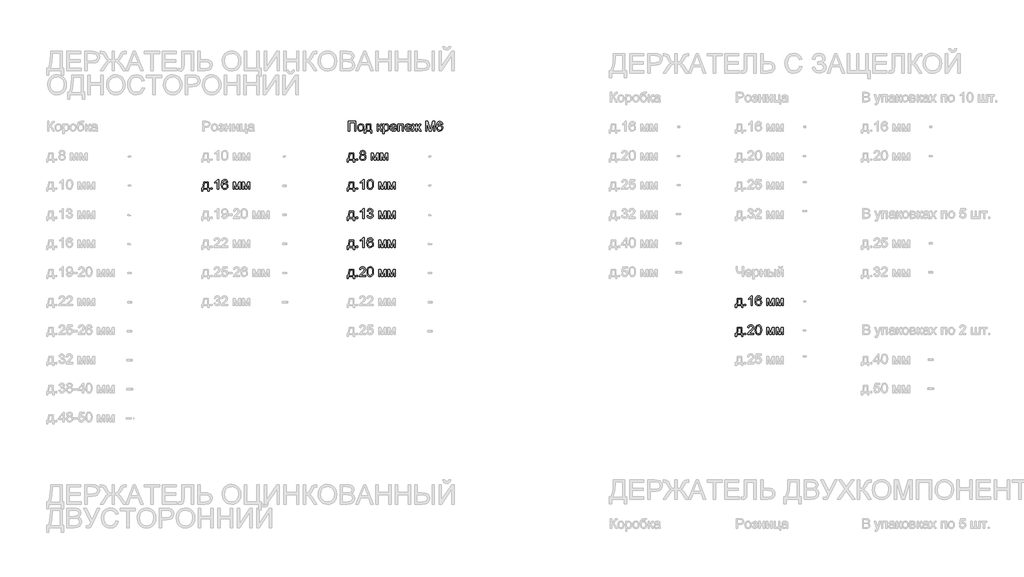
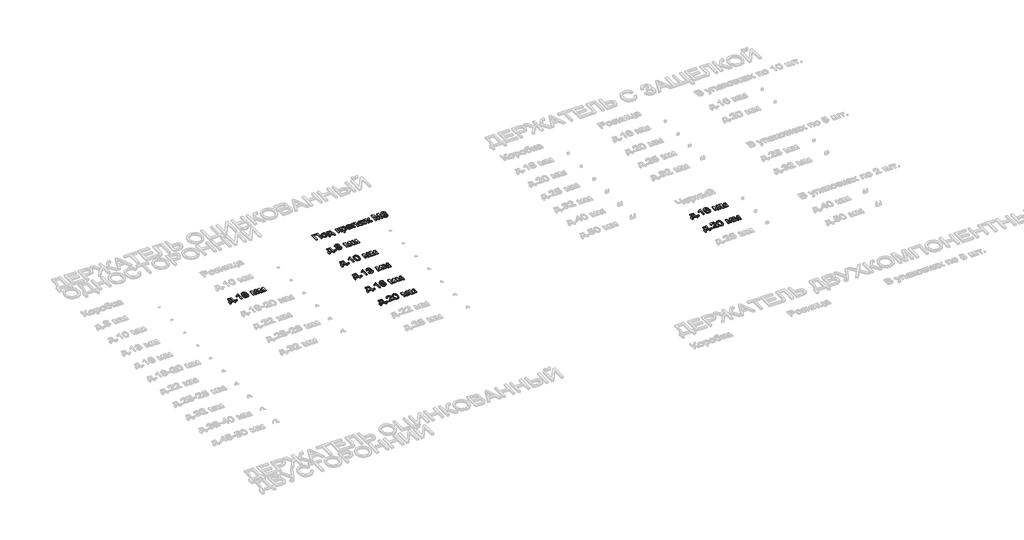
# One storey, part 40 of 98: 9 proxies.
"""IFC4 building model written with IfcOpenShell, lengths in millimetres."""

from ifc_helpers import new_model, si_unit, origin, origin_with_axes, place, context, project, spatial, polyline, outline, extrude, element, save

model = new_model("IFC4")

# Units and contexts
model_context = context("Model", 3, world=origin())
ifc_project = project(units=[si_unit("LENGTHUNIT", "METRE", prefix="MILLI")], contexts=[model_context])

# Site, building, storey
site = spatial("IfcSite", under=ifc_project)
building = spatial("IfcBuilding", under=site)
storey = spatial("IfcBuildingStorey", under=building, Name="Этаж 01", Elevation=0.0)

# Proxies
placement = place(None, origin())
element("IfcBuildingElementProxy", 1, Name="100", ObjectType="100", at=placement, inside=storey, context=model_context, shape_type="SweptSolid", body=[
    extrude(outline(polyline([(3063.5964075, -32159.0558563), (3142.0778998, -32159.0558563), (3142.0778998, -32259.5121665), (3129.520861, -32259.5121665), (3129.520861, -32171.6128951), (3076.1534462, -32171.6128951), (3076.1534462, -32259.5121665), (3063.5964075, -32259.5121665), (3063.5964075, -32159.0558563)])), origin_with_axes(), (0.0, 0.0, 1.0), 10.0),
    extrude(outline(polyline([(3159.3438281, -32222.6258651), (3162.0600235, -32204.8387706), (3170.2086097, -32192.3369141), (3180.2763136, -32186.2116789), (3192.3305803, -32184.1699338), (3205.5222155, -32186.656203), (3216.058969, -32194.1150104), (3222.9659534, -32205.957745), (3225.2682816, -32221.5957955), (3221.1970542, -32243.9384953), (3209.3389912, -32256.5813732), (3192.3305803, -32261.0817963), (3178.9795296, -32258.6047242), (3168.4550388, -32251.1735079), (3161.6216308, -32239.082453), (3159.3438281, -32222.6258651)]), holes=[polyline([(3171.9008668, -32222.6013396), (3173.3540007, -32233.9658276), (3177.7134024, -32242.0622972), (3184.2739646, -32246.9091424), (3192.3305803, -32248.5247575), (3200.3504078, -32246.8999454), (3206.8987073, -32242.025509), (3211.258109, -32233.8217405), (3212.7112428, -32222.2089321), (3211.2489119, -32211.175538), (3206.8619191, -32203.189433), (3200.3044225, -32198.3425877), (3192.3305803, -32196.7269726), (3184.2739646, -32198.3364563), (3177.7134024, -32203.1649075), (3173.3540007, -32211.242983), (3171.9008668, -32222.6013396)])]), origin_with_axes(), (0.0, 0.0, 1.0), 10.0),
    extrude(outline(polyline([(3250.3823591, -32185.7395637), (3297.4712545, -32185.7395637), (3297.4712545, -32246.9551277), (3306.8890336, -32246.9551277), (3306.8890336, -32279.9173545), (3294.3319948, -32279.9173545), (3294.3319948, -32259.5121665), (3242.5342099, -32259.5121665), (3242.5342099, -32279.9173545), (3229.9771711, -32279.9173545), (3229.9771711, -32246.9551277), (3237.8253204, -32246.9551277), (3247.5251423, -32223.0060098), (3250.3823591, -32185.7395637)]), holes=[polyline([(3261.3697681, -32198.2966025), (3258.4267121, -32226.905559), (3251.951989, -32246.9551277), (3284.9142158, -32246.9551277), (3284.9142158, -32198.2966025), (3261.3697681, -32198.2966025)])]), origin_with_axes(), (0.0, 0.0, 1.0), 10.0),
    extrude(outline(polyline([(3360.2564484, -32185.7395637), (3372.8134871, -32185.7395637), (3372.8134871, -32217.1321606), (3381.2257221, -32214.8758177), (3388.1173781, -32201.7301677), (3393.8440745, -32190.3871396), (3398.8963206, -32186.6960569), (3408.0811077, -32185.7395637), (3410.4846034, -32185.7395637), (3410.4846034, -32198.3701789), (3407.1000891, -32198.2966025), (3400.9687225, -32199.6209776), (3396.6522404, -32207.8860598), (3391.5877316, -32216.8255923), (3384.4876091, -32221.203388), (3392.4093347, -32226.0900872), (3400.1839076, -32236.3846517), (3413.6238631, -32259.5121665), (3399.3500417, -32259.5121665), (3386.1798663, -32236.875161), (3379.5579904, -32227.2979664), (3372.8134871, -32224.9803098), (3372.8134871, -32259.5121665), (3360.2564484, -32259.5121665), (3360.2564484, -32185.7395637)])), origin_with_axes(), (0.0, 0.0, 1.0), 10.0),
    extrude(outline(polyline([(3421.4720124, -32287.7655037), (3421.4720124, -32185.7395637), (3434.0290511, -32185.7395637), (3434.0290511, -32198.0513478), (3442.7110662, -32187.6402873), (3454.4342391, -32184.1699338), (3470.3512668, -32189.0259762), (3480.7500645, -32202.7111864), (3484.2572062, -32222.0617793), (3480.2963434, -32242.4056537), (3468.7938997, -32256.2625422), (3452.9136602, -32261.0817963), (3441.987565, -32257.8566975), (3434.0290511, -32249.7019799), (3434.0290511, -32287.7655037), (3421.4720124, -32287.7655037)]), holes=[polyline([(3434.0290511, -32223.2144763), (3435.3871488, -32234.4716653), (3439.4614419, -32242.34434), (3445.4732469, -32246.9796532), (3452.6438801, -32248.5247575), (3459.9310093, -32246.9244709), (3466.0960984, -32242.1236108), (3470.2991502, -32233.9627619), (3471.7001674, -32222.2825085), (3470.3328727, -32211.0866332), (3466.2309884, -32203.1035939), (3460.2283806, -32198.3211279), (3453.1589149, -32196.7269726), (3446.0618581, -32198.4222955), (3439.8293239, -32203.5082641), (3435.4791193, -32211.8254628), (3434.0290511, -32223.2144763)])]), origin_with_axes(), (0.0, 0.0, 1.0), 10.0),
    extrude(outline(polyline([(3550.0345069, -32237.5373486), (3562.346291, -32239.1069785), (3557.9102473, -32248.3837361), (3550.8315846, -32255.3183117), (3541.2697184, -32259.6409252), (3529.3840643, -32261.0817963), (3514.6503904, -32258.5955272), (3503.3134936, -32251.1367197), (3496.0846123, -32239.1897519), (3493.6749853, -32223.2390017), (3496.1091378, -32206.751757), (3503.4115954, -32194.4215788), (3514.5952081, -32186.7328451), (3528.6728258, -32184.1699338), (3542.3120507, -32186.7267137), (3553.2105548, -32194.3970533), (3560.3566626, -32206.7027061), (3562.7386985, -32223.1654253), (3562.6651221, -32226.5499397), (3506.232024, -32226.5499397), (3508.4055935, -32235.9493247), (3513.4547739, -32242.8593748), (3520.7419031, -32247.1084119), (3529.6293189, -32248.5247575), (3541.941103, -32245.9005326), (3550.0345069, -32237.5373486)]), holes=[polyline([(3506.232024, -32213.9929009), (3550.1816597, -32213.9929009), (3545.1539391, -32202.6130845), (3537.8330874, -32198.1985006), (3528.6237748, -32196.7269726), (3513.1604683, -32201.4235994), (3508.2952289, -32206.9142382), (3506.232024, -32213.9929009)])]), origin_with_axes(), (0.0, 0.0, 1.0), 10.0),
    extrude(outline(polyline([(3575.2957373, -32185.7395637), (3631.8024117, -32185.7395637), (3631.8024117, -32259.5121665), (3619.245373, -32259.5121665), (3619.245373, -32198.2966025), (3587.852776, -32198.2966025), (3587.852776, -32259.5121665), (3575.2957373, -32259.5121665), (3575.2957373, -32185.7395637)])), origin_with_axes(), (0.0, 0.0, 1.0), 10.0),
    extrude(outline(polyline([(3702.288602, -32237.5373486), (3714.6003861, -32239.1069785), (3710.1643424, -32248.3837361), (3703.0856797, -32255.3183117), (3693.5238135, -32259.6409252), (3681.6381594, -32261.0817963), (3666.9044854, -32258.5955272), (3655.5675886, -32251.1367197), (3648.3387074, -32239.1897519), (3645.9290804, -32223.2390017), (3648.3632329, -32206.751757), (3655.6656905, -32194.4215788), (3666.8493031, -32186.7328451), (3680.9269208, -32184.1699338), (3694.5661458, -32186.7267137), (3705.4646499, -32194.3970533), (3712.6107577, -32206.7027061), (3714.9927936, -32223.1654253), (3714.9192172, -32226.5499397), (3658.4861191, -32226.5499397), (3660.6596886, -32235.9493247), (3665.708869, -32242.8593748), (3672.9959981, -32247.1084119), (3681.883414, -32248.5247575), (3694.1951981, -32245.9005326), (3702.288602, -32237.5373486)]), holes=[polyline([(3658.4861191, -32213.9929009), (3702.4357548, -32213.9929009), (3697.4080342, -32202.6130845), (3690.0871825, -32198.1985006), (3680.8778699, -32196.7269726), (3665.4145634, -32201.4235994), (3660.549324, -32206.9142382), (3658.4861191, -32213.9929009)])]), origin_with_axes(), (0.0, 0.0, 1.0), 10.0),
    extrude(outline(polyline([(3773.0690979, -32185.7395637), (3773.0690979, -32217.1321606), (3780.3899496, -32214.5447239), (3787.3183938, -32201.1170311), (3795.583476, -32188.2411613), (3807.3311744, -32185.7395637), (3812.309844, -32185.7395637), (3812.309844, -32198.3701789), (3808.8517533, -32198.2966025), (3802.3770302, -32199.5964522), (3797.8888698, -32207.738907), (3792.6772082, -32216.6661768), (3785.2337292, -32221.203388), (3793.4436291, -32226.0900872), (3801.4450624, -32236.3846517), (3815.4491037, -32259.5121665), (3801.052655, -32259.5121665), (3787.2693429, -32236.7034828), (3780.2427968, -32227.22439), (3773.0690979, -32224.9803098), (3773.0690979, -32259.5121665), (3760.5120591, -32259.5121665), (3760.5120591, -32224.9803098), (3753.3628857, -32227.1753391), (3746.2872886, -32236.6544318), (3732.5039765, -32259.5121665), (3718.1320533, -32259.5121665), (3732.0870436, -32236.3846517), (3740.1497907, -32226.0900872), (3748.3964787, -32221.203388), (3740.4992786, -32216.2001929), (3733.7302499, -32203.3243231), (3730.4193119, -32199.0814174), (3724.9991838, -32198.2230261), (3721.271313, -32198.2966025), (3721.271313, -32185.7395637), (3723.1597739, -32185.7395637), (3734.1717083, -32186.5243786), (3739.8861419, -32189.859842), (3746.2872886, -32201.1170311), (3753.1421565, -32214.4588848), (3760.5120591, -32217.1321606), (3760.5120591, -32185.7395637), (3773.0690979, -32185.7395637)])), origin_with_axes(), (0.0, 0.0, 1.0), 10.0),
    extrude(outline(polyline([(3862.5379991, -32259.5121665), (3862.5379991, -32159.0558563), (3884.144935, -32159.0558563), (3904.6972758, -32229.8608776), (3908.8420796, -32244.6497339), (3913.3302399, -32228.6346043), (3933.5392242, -32159.0558563), (3955.14616, -32159.0558563), (3955.14616, -32259.5121665), (3942.5891213, -32259.5121665), (3942.5891213, -32171.6128951), (3917.3524164, -32259.5121665), (3900.3317427, -32259.5121665), (3875.0950379, -32171.6128951), (3875.0950379, -32259.5121665), (3862.5379991, -32259.5121665)])), origin_with_axes(), (0.0, 0.0, 1.0), 10.0),
    extrude(outline(polyline([(4036.766912, -32185.7395637), (4024.2098733, -32187.3091935), (4019.4519328, -32176.8368194), (4006.8703686, -32171.6128951), (3995.5396031, -32174.6540529), (3986.9679526, -32186.0706575), (3983.3994973, -32208.4501455), (3994.4727453, -32198.4314925), (4008.1947437, -32195.1573428), (4019.7952893, -32197.3952916), (4029.5318995, -32204.109138), (4036.1353813, -32214.3669143), (4038.3365419, -32227.2366527), (4034.1917381, -32244.5638947), (4022.7873962, -32256.8266279), (4006.3308083, -32261.0817963), (3992.084578, -32258.2613677), (3980.7384842, -32249.8000818), (3973.3164649, -32234.8640728), (3970.8424585, -32212.6194748), (3973.5893107, -32187.6096305), (3981.8298674, -32170.5092491), (3993.0809251, -32161.9192045), (4007.6551835, -32159.0558563), (4018.6732492, -32160.8278213), (4027.4962857, -32166.1437161), (4033.6767033, -32174.5866079), (4036.766912, -32185.7395637)]), holes=[polyline([(3983.3994973, -32227.040449), (3986.305765, -32237.9174933), (3994.0312869, -32245.8146935), (4005.3497896, -32248.5247575), (4013.6363316, -32247.1206746), (4020.1509086, -32242.9084257), (4024.3723545, -32236.2865498), (4025.7795031, -32227.6535857), (4024.3907486, -32219.3670437), (4020.224485, -32213.0486705), (4013.5995434, -32209.0479538), (4004.8347548, -32207.7143815), (3989.6412284, -32213.0486705), (3984.9599301, -32219.2137596), (3983.3994973, -32227.040449)])]), origin_with_axes(), (0.0, 0.0, 1.0), 10.0),
])
element("IfcBuildingElementProxy", 2, Name="100", ObjectType="100", at=placement, inside=storey, context=model_context, shape_type="SweptSolid", body=[
    extrude(outline(polyline([(1573.0141865, -32785.7395637), (1620.1030819, -32785.7395637), (1620.1030819, -32846.9551277), (1629.520861, -32846.9551277), (1629.520861, -32879.9173545), (1616.9638222, -32879.9173545), (1616.9638222, -32859.5121665), (1565.1660373, -32859.5121665), (1565.1660373, -32879.9173545), (1552.6089985, -32879.9173545), (1552.6089985, -32846.9551277), (1560.4571478, -32846.9551277), (1570.1569697, -32823.0060098), (1573.0141865, -32785.7395637)]), holes=[polyline([(1584.0015955, -32798.2966025), (1581.0585395, -32826.905559), (1574.5838164, -32846.9551277), (1607.5460431, -32846.9551277), (1607.5460431, -32798.2966025), (1584.0015955, -32798.2966025)])]), origin_with_axes(), (0.0, 0.0, 1.0), 10.0),
    extrude(outline(polyline([(1646.7867893, -32859.5121665), (1646.7867893, -32846.9551277), (1659.3438281, -32846.9551277), (1659.3438281, -32859.5121665), (1646.7867893, -32859.5121665)])), origin_with_axes(), (0.0, 0.0, 1.0), 10.0),
    extrude(outline(polyline([(1726.8379114, -32859.5121665), (1714.2808727, -32859.5121665), (1714.2808727, -32781.2268779), (1702.3860215, -32789.7004265), (1689.1667951, -32796.0402596), (1689.1667951, -32784.1699338), (1707.5731576, -32772.4222355), (1718.7445076, -32759.0558563), (1726.8379114, -32759.0558563), (1726.8379114, -32859.5121665)])), origin_with_axes(), (0.0, 0.0, 1.0), 10.0),
    extrude(outline(polyline([(1821.0157022, -32785.7395637), (1808.4586634, -32787.3091935), (1803.700723, -32776.8368194), (1791.1191587, -32771.6128951), (1779.7883933, -32774.6540529), (1771.2167428, -32786.0706575), (1767.6482874, -32808.4501455), (1778.7215355, -32798.4314925), (1792.4435339, -32795.1573428), (1804.0440795, -32797.3952916), (1813.7806896, -32804.109138), (1820.3841715, -32814.3669143), (1822.5853321, -32827.2366527), (1818.4405282, -32844.5638947), (1807.0361864, -32856.8266279), (1790.5795985, -32861.0817963), (1776.3333682, -32858.2613677), (1764.9872743, -32849.8000818), (1757.5652551, -32834.8640728), (1755.0912487, -32812.6194748), (1757.8381009, -32787.6096305), (1766.0786576, -32770.5092491), (1777.3297153, -32761.9192045), (1791.9039737, -32759.0558563), (1802.9220394, -32760.8278213), (1811.7450759, -32766.1437161), (1817.9254935, -32774.5866079), (1821.0157022, -32785.7395637)]), holes=[polyline([(1767.6482874, -32827.040449), (1770.5545552, -32837.9174933), (1778.2800771, -32845.8146935), (1789.5985798, -32848.5247575), (1797.8851218, -32847.1206746), (1804.3996988, -32842.9084257), (1808.6211447, -32836.2865498), (1810.0282933, -32827.6535857), (1808.6395388, -32819.3670437), (1804.4732752, -32813.0486705), (1797.8483336, -32809.0479538), (1789.083545, -32807.7143815), (1773.8900186, -32813.0486705), (1769.2087202, -32819.2137596), (1767.6482874, -32827.040449)])]), origin_with_axes(), (0.0, 0.0, 1.0), 10.0),
    extrude(outline(polyline([(1875.9527468, -32785.7395637), (1897.5596827, -32785.7395637), (1914.2124743, -32844.7968867), (1932.1651157, -32785.7395637), (1952.8646093, -32785.7395637), (1952.8646093, -32859.5121665), (1940.3075705, -32859.5121665), (1940.3075705, -32800.111487), (1922.2568273, -32859.5121665), (1905.7757139, -32859.5121665), (1888.5097856, -32797.2665329), (1888.5097856, -32859.5121665), (1875.9527468, -32859.5121665), (1875.9527468, -32785.7395637)])), origin_with_axes(), (0.0, 0.0, 1.0), 10.0),
    extrude(outline(polyline([(1971.7001674, -32785.7395637), (1993.3071033, -32785.7395637), (2009.9598949, -32844.7968867), (2027.9125363, -32785.7395637), (2048.6120299, -32785.7395637), (2048.6120299, -32859.5121665), (2036.0549911, -32859.5121665), (2036.0549911, -32800.111487), (2018.0042479, -32859.5121665), (2001.5231345, -32859.5121665), (1984.2572062, -32797.2665329), (1984.2572062, -32859.5121665), (1971.7001674, -32859.5121665), (1971.7001674, -32785.7395637)])), origin_with_axes(), (0.0, 0.0, 1.0), 10.0),
])
element("IfcBuildingElementProxy", 3, Name="100", ObjectType="100", at=placement, inside=storey, context=model_context, shape_type="SweptSolid", body=[
    extrude(outline(polyline([(3073.0141865, -32485.7395637), (3120.1030819, -32485.7395637), (3120.1030819, -32546.9551277), (3129.520861, -32546.9551277), (3129.520861, -32579.9173545), (3116.9638222, -32579.9173545), (3116.9638222, -32559.5121665), (3065.1660373, -32559.5121665), (3065.1660373, -32579.9173545), (3052.6089985, -32579.9173545), (3052.6089985, -32546.9551277), (3060.4571478, -32546.9551277), (3070.1569697, -32523.0060098), (3073.0141865, -32485.7395637)]), holes=[polyline([(3084.0015955, -32498.2966025), (3081.0585395, -32526.905559), (3074.5838164, -32546.9551277), (3107.5460431, -32546.9551277), (3107.5460431, -32498.2966025), (3084.0015955, -32498.2966025)])]), origin_with_axes(), (0.0, 0.0, 1.0), 10.0),
    extrude(outline(polyline([(3146.7867893, -32559.5121665), (3146.7867893, -32546.9551277), (3159.3438281, -32546.9551277), (3159.3438281, -32559.5121665), (3146.7867893, -32559.5121665)])), origin_with_axes(), (0.0, 0.0, 1.0), 10.0),
    extrude(outline(polyline([(3198.045014, -32504.1827144), (3186.6038839, -32496.3836161), (3182.8882758, -32484.2435102), (3184.9116267, -32474.4271923), (3190.9816796, -32466.3153943), (3200.4178528, -32460.8707408), (3212.5395646, -32459.0558563), (3224.7348527, -32460.9136604), (3234.2936532, -32466.4870726), (3240.4740707, -32474.7276293), (3242.5342099, -32484.5868668), (3238.8676527, -32496.4204043), (3227.7453537, -32504.1827144), (3241.0994701, -32514.0296891), (3245.6734696, -32530.2778106), (3243.404864, -32542.2830264), (3236.5990471, -32552.2035775), (3226.0898847, -32558.8622416), (3212.7112428, -32561.0817963), (3199.3326009, -32558.8530446), (3188.8234386, -32552.1667893), (3182.0176217, -32542.151202), (3179.7490161, -32529.934454), (3184.5069565, -32513.3061879), (3198.045014, -32504.1827144)]), holes=[polyline([(3192.3060548, -32529.4929957), (3194.4029822, -32538.9475629), (3201.8219358, -32546.02316), (3212.8093447, -32548.5247575), (3221.3564697, -32547.2095794), (3227.7698792, -32543.264045), (3233.1164308, -32529.8854031), (3227.5982009, -32516.2492438), (3221.0376387, -32512.2025419), (3212.3924118, -32510.8536412), (3203.9648484, -32512.1841478), (3197.6158183, -32516.1756674), (3192.3060548, -32529.4929957)]), polyline([(3195.4453145, -32484.6113922), (3199.8966867, -32494.4706297), (3212.8583956, -32498.2966025), (3225.5625872, -32494.4951552), (3229.9771711, -32485.175478), (3225.4154344, -32475.524707), (3212.7112428, -32471.6128951), (3199.9702631, -32475.4388678), (3195.4453145, -32484.6113922)])]), origin_with_axes(), (0.0, 0.0, 1.0), 10.0),
    extrude(outline(polyline([(3299.0408844, -32485.7395637), (3320.6478202, -32485.7395637), (3337.3006119, -32544.7968867), (3355.2532532, -32485.7395637), (3375.9527468, -32485.7395637), (3375.9527468, -32559.5121665), (3363.3957081, -32559.5121665), (3363.3957081, -32500.111487), (3345.3449648, -32559.5121665), (3328.8638514, -32559.5121665), (3311.5979231, -32497.2665329), (3311.5979231, -32559.5121665), (3299.0408844, -32559.5121665), (3299.0408844, -32485.7395637)])), origin_with_axes(), (0.0, 0.0, 1.0), 10.0),
    extrude(outline(polyline([(3394.788305, -32485.7395637), (3416.3952408, -32485.7395637), (3433.0480325, -32544.7968867), (3451.0006738, -32485.7395637), (3471.7001674, -32485.7395637), (3471.7001674, -32559.5121665), (3459.1431287, -32559.5121665), (3459.1431287, -32500.111487), (3441.0923854, -32559.5121665), (3424.6112721, -32559.5121665), (3407.3453437, -32497.2665329), (3407.3453437, -32559.5121665), (3394.788305, -32559.5121665), (3394.788305, -32485.7395637)])), origin_with_axes(), (0.0, 0.0, 1.0), 10.0),
])
element("IfcBuildingElementProxy", 4, Name="100", ObjectType="100", at=placement, inside=storey, context=model_context, shape_type="SweptSolid", body=[
    extrude(outline(polyline([(3073.0141865, -32785.7395637), (3120.1030819, -32785.7395637), (3120.1030819, -32846.9551277), (3129.520861, -32846.9551277), (3129.520861, -32879.9173545), (3116.9638222, -32879.9173545), (3116.9638222, -32859.5121665), (3065.1660373, -32859.5121665), (3065.1660373, -32879.9173545), (3052.6089985, -32879.9173545), (3052.6089985, -32846.9551277), (3060.4571478, -32846.9551277), (3070.1569697, -32823.0060098), (3073.0141865, -32785.7395637)]), holes=[polyline([(3084.0015955, -32798.2966025), (3081.0585395, -32826.905559), (3074.5838164, -32846.9551277), (3107.5460431, -32846.9551277), (3107.5460431, -32798.2966025), (3084.0015955, -32798.2966025)])]), origin_with_axes(), (0.0, 0.0, 1.0), 10.0),
    extrude(outline(polyline([(3146.7867893, -32859.5121665), (3146.7867893, -32846.9551277), (3159.3438281, -32846.9551277), (3159.3438281, -32859.5121665), (3146.7867893, -32859.5121665)])), origin_with_axes(), (0.0, 0.0, 1.0), 10.0),
    extrude(outline(polyline([(3226.8379114, -32859.5121665), (3214.2808727, -32859.5121665), (3214.2808727, -32781.2268779), (3202.3860215, -32789.7004265), (3189.1667951, -32796.0402596), (3189.1667951, -32784.1699338), (3207.5731576, -32772.4222355), (3218.7445076, -32759.0558563), (3226.8379114, -32759.0558563), (3226.8379114, -32859.5121665)])), origin_with_axes(), (0.0, 0.0, 1.0), 10.0),
    extrude(outline(polyline([(3256.6608785, -32810.0933518), (3260.3519612, -32781.1900897), (3271.3148447, -32764.5250353), (3289.6231053, -32759.0558563), (3304.2893342, -32762.2932179), (3314.4183518, -32771.6251578), (3320.3044637, -32786.4875904), (3322.5853321, -32810.0933518), (3318.9310376, -32838.8739865), (3308.0049423, -32855.5758291), (3299.7735827, -32859.7053045), (3289.6231053, -32861.0817963), (3276.5755572, -32858.6905633), (3266.6672688, -32851.5168644), (3259.1624761, -32834.5268476), (3256.6608785, -32810.0933518)]), holes=[polyline([(3269.2179173, -32810.0688263), (3270.6894453, -32829.8210238), (3275.1040292, -32841.2529568), (3281.6768542, -32846.7068073), (3289.6231053, -32848.5247575), (3297.5693564, -32846.700676), (3304.1421814, -32841.2284313), (3308.5567653, -32829.7903669), (3310.0282933, -32810.0688263), (3308.6058162, -32790.7611529), (3304.3383851, -32779.2403151), (3297.7778228, -32773.5197501), (3289.4759525, -32771.6128951), (3281.6155405, -32773.2928895), (3275.3002329, -32778.3328729), (3270.7384962, -32790.5710806), (3269.2179173, -32810.0688263)])]), origin_with_axes(), (0.0, 0.0, 1.0), 10.0),
    extrude(outline(polyline([(3375.9527468, -32785.7395637), (3397.5596827, -32785.7395637), (3414.2124743, -32844.7968867), (3432.1651157, -32785.7395637), (3452.8646093, -32785.7395637), (3452.8646093, -32859.5121665), (3440.3075705, -32859.5121665), (3440.3075705, -32800.111487), (3422.2568273, -32859.5121665), (3405.7757139, -32859.5121665), (3388.5097856, -32797.2665329), (3388.5097856, -32859.5121665), (3375.9527468, -32859.5121665), (3375.9527468, -32785.7395637)])), origin_with_axes(), (0.0, 0.0, 1.0), 10.0),
    extrude(outline(polyline([(3471.7001674, -32785.7395637), (3493.3071033, -32785.7395637), (3509.9598949, -32844.7968867), (3527.9125363, -32785.7395637), (3548.6120299, -32785.7395637), (3548.6120299, -32859.5121665), (3536.0549911, -32859.5121665), (3536.0549911, -32800.111487), (3518.0042479, -32859.5121665), (3501.5231345, -32859.5121665), (3484.2572062, -32797.2665329), (3484.2572062, -32859.5121665), (3471.7001674, -32859.5121665), (3471.7001674, -32785.7395637)])), origin_with_axes(), (0.0, 0.0, 1.0), 10.0),
])
element("IfcBuildingElementProxy", 5, Name="100", ObjectType="100", at=placement, inside=storey, context=model_context, shape_type="SweptSolid", body=[
    extrude(outline(polyline([(3073.0141865, -33085.7395637), (3120.1030819, -33085.7395637), (3120.1030819, -33146.9551277), (3129.520861, -33146.9551277), (3129.520861, -33179.9173545), (3116.9638222, -33179.9173545), (3116.9638222, -33159.5121665), (3065.1660373, -33159.5121665), (3065.1660373, -33179.9173545), (3052.6089985, -33179.9173545), (3052.6089985, -33146.9551277), (3060.4571478, -33146.9551277), (3070.1569697, -33123.0060098), (3073.0141865, -33085.7395637)]), holes=[polyline([(3084.0015955, -33098.2966025), (3081.0585395, -33126.905559), (3074.5838164, -33146.9551277), (3107.5460431, -33146.9551277), (3107.5460431, -33098.2966025), (3084.0015955, -33098.2966025)])]), origin_with_axes(), (0.0, 0.0, 1.0), 10.0),
    extrude(outline(polyline([(3146.7867893, -33159.5121665), (3146.7867893, -33146.9551277), (3159.3438281, -33146.9551277), (3159.3438281, -33159.5121665), (3146.7867893, -33159.5121665)])), origin_with_axes(), (0.0, 0.0, 1.0), 10.0),
    extrude(outline(polyline([(3226.8379114, -33159.5121665), (3214.2808727, -33159.5121665), (3214.2808727, -33081.2268779), (3202.3860215, -33089.7004265), (3189.1667951, -33096.0402596), (3189.1667951, -33084.1699338), (3207.5731576, -33072.4222355), (3218.7445076, -33059.0558563), (3226.8379114, -33059.0558563), (3226.8379114, -33159.5121665)])), origin_with_axes(), (0.0, 0.0, 1.0), 10.0),
    extrude(outline(polyline([(3256.6608785, -33132.8284591), (3269.2179173, -33131.2588292), (3276.1463615, -33144.4780556), (3289.1080705, -33148.5247575), (3297.7165092, -33147.1329373), (3304.3629106, -33142.9574767), (3310.0282933, -33129.1741646), (3304.4119615, -33116.1879302), (3290.1381401, -33111.049845), (3281.3334977, -33112.4232711), (3282.7314492, -33099.8662323), (3284.7425375, -33100.0133851), (3298.9918334, -33096.4081416), (3303.7375112, -33091.8341421), (3305.3194038, -33085.3226308), (3300.7331415, -33075.5001815), (3288.9118668, -33071.6128951), (3276.9434392, -33075.5369697), (3270.7875471, -33087.3091935), (3258.2305084, -33085.7395637), (3261.9277224, -33074.4639805), (3268.5066788, -33066.0456142), (3277.5075249, -33060.8032958), (3288.4704084, -33059.0558563), (3303.6148838, -33062.5016843), (3314.2098853, -33071.9194634), (3317.8764425, -33084.5868668), (3314.3938263, -33096.1628869), (3304.0931304, -33104.47702), (3317.7783407, -33113.0609332), (3322.5853321, -33129.3948938), (3320.1818364, -33141.6331015), (3312.9713493, -33151.860221), (3302.0881736, -33158.7764025), (3288.6666121, -33161.0817963), (3276.5265063, -33159.1136276), (3266.6427433, -33153.2091216), (3259.7694814, -33144.1776186), (3256.6608785, -33132.8284591)])), origin_with_axes(), (0.0, 0.0, 1.0), 10.0),
    extrude(outline(polyline([(3375.9527468, -33085.7395637), (3397.5596827, -33085.7395637), (3414.2124743, -33144.7968867), (3432.1651157, -33085.7395637), (3452.8646093, -33085.7395637), (3452.8646093, -33159.5121665), (3440.3075705, -33159.5121665), (3440.3075705, -33100.111487), (3422.2568273, -33159.5121665), (3405.7757139, -33159.5121665), (3388.5097856, -33097.2665329), (3388.5097856, -33159.5121665), (3375.9527468, -33159.5121665), (3375.9527468, -33085.7395637)])), origin_with_axes(), (0.0, 0.0, 1.0), 10.0),
    extrude(outline(polyline([(3471.7001674, -33085.7395637), (3493.3071033, -33085.7395637), (3509.9598949, -33144.7968867), (3527.9125363, -33085.7395637), (3548.6120299, -33085.7395637), (3548.6120299, -33159.5121665), (3536.0549911, -33159.5121665), (3536.0549911, -33100.111487), (3518.0042479, -33159.5121665), (3501.5231345, -33159.5121665), (3484.2572062, -33097.2665329), (3484.2572062, -33159.5121665), (3471.7001674, -33159.5121665), (3471.7001674, -33085.7395637)])), origin_with_axes(), (0.0, 0.0, 1.0), 10.0),
])
element("IfcBuildingElementProxy", 6, Name="100", ObjectType="100", at=placement, inside=storey, context=model_context, shape_type="SweptSolid", body=[
    extrude(outline(polyline([(3073.0141865, -33385.7395637), (3120.1030819, -33385.7395637), (3120.1030819, -33446.9551277), (3129.520861, -33446.9551277), (3129.520861, -33479.9173545), (3116.9638222, -33479.9173545), (3116.9638222, -33459.5121665), (3065.1660373, -33459.5121665), (3065.1660373, -33479.9173545), (3052.6089985, -33479.9173545), (3052.6089985, -33446.9551277), (3060.4571478, -33446.9551277), (3070.1569697, -33423.0060098), (3073.0141865, -33385.7395637)]), holes=[polyline([(3084.0015955, -33398.2966025), (3081.0585395, -33426.905559), (3074.5838164, -33446.9551277), (3107.5460431, -33446.9551277), (3107.5460431, -33398.2966025), (3084.0015955, -33398.2966025)])]), origin_with_axes(), (0.0, 0.0, 1.0), 10.0),
    extrude(outline(polyline([(3146.7867893, -33459.5121665), (3146.7867893, -33446.9551277), (3159.3438281, -33446.9551277), (3159.3438281, -33459.5121665), (3146.7867893, -33459.5121665)])), origin_with_axes(), (0.0, 0.0, 1.0), 10.0),
    extrude(outline(polyline([(3226.8379114, -33459.5121665), (3214.2808727, -33459.5121665), (3214.2808727, -33381.2268779), (3202.3860215, -33389.7004265), (3189.1667951, -33396.0402596), (3189.1667951, -33384.1699338), (3207.5731576, -33372.4222355), (3218.7445076, -33359.0558563), (3226.8379114, -33359.0558563), (3226.8379114, -33459.5121665)])), origin_with_axes(), (0.0, 0.0, 1.0), 10.0),
    extrude(outline(polyline([(3321.0157022, -33385.7395637), (3308.4586634, -33387.3091935), (3303.700723, -33376.8368194), (3291.1191587, -33371.6128951), (3279.7883933, -33374.6540529), (3271.2167428, -33386.0706575), (3267.6482874, -33408.4501455), (3278.7215355, -33398.4314925), (3292.4435339, -33395.1573428), (3304.0440795, -33397.3952916), (3313.7806896, -33404.109138), (3320.3841715, -33414.3669143), (3322.5853321, -33427.2366527), (3318.4405282, -33444.5638947), (3307.0361864, -33456.8266279), (3290.5795985, -33461.0817963), (3276.3333682, -33458.2613677), (3264.9872743, -33449.8000818), (3257.5652551, -33434.8640728), (3255.0912487, -33412.6194748), (3257.8381009, -33387.6096305), (3266.0786576, -33370.5092491), (3277.3297153, -33361.9192045), (3291.9039737, -33359.0558563), (3302.9220394, -33360.8278213), (3311.7450759, -33366.1437161), (3317.9254935, -33374.5866079), (3321.0157022, -33385.7395637)]), holes=[polyline([(3267.6482874, -33427.040449), (3270.5545552, -33437.9174933), (3278.2800771, -33445.8146935), (3289.5985798, -33448.5247575), (3297.8851218, -33447.1206746), (3304.3996988, -33442.9084257), (3308.6211447, -33436.2865498), (3310.0282933, -33427.6535857), (3308.6395388, -33419.3670437), (3304.4732752, -33413.0486705), (3297.8483336, -33409.0479538), (3289.083545, -33407.7143815), (3273.8900186, -33413.0486705), (3269.2087202, -33419.2137596), (3267.6482874, -33427.040449)])]), origin_with_axes(), (0.0, 0.0, 1.0), 10.0),
    extrude(outline(polyline([(3375.9527468, -33385.7395637), (3397.5596827, -33385.7395637), (3414.2124743, -33444.7968867), (3432.1651157, -33385.7395637), (3452.8646093, -33385.7395637), (3452.8646093, -33459.5121665), (3440.3075705, -33459.5121665), (3440.3075705, -33400.111487), (3422.2568273, -33459.5121665), (3405.7757139, -33459.5121665), (3388.5097856, -33397.2665329), (3388.5097856, -33459.5121665), (3375.9527468, -33459.5121665), (3375.9527468, -33385.7395637)])), origin_with_axes(), (0.0, 0.0, 1.0), 10.0),
    extrude(outline(polyline([(3471.7001674, -33385.7395637), (3493.3071033, -33385.7395637), (3509.9598949, -33444.7968867), (3527.9125363, -33385.7395637), (3548.6120299, -33385.7395637), (3548.6120299, -33459.5121665), (3536.0549911, -33459.5121665), (3536.0549911, -33400.111487), (3518.0042479, -33459.5121665), (3501.5231345, -33459.5121665), (3484.2572062, -33397.2665329), (3484.2572062, -33459.5121665), (3471.7001674, -33459.5121665), (3471.7001674, -33385.7395637)])), origin_with_axes(), (0.0, 0.0, 1.0), 10.0),
])
element("IfcBuildingElementProxy", 7, Name="100", ObjectType="100", at=placement, inside=storey, context=model_context, shape_type="SweptSolid", body=[
    extrude(outline(polyline([(3073.0141865, -33685.7395637), (3120.1030819, -33685.7395637), (3120.1030819, -33746.9551277), (3129.520861, -33746.9551277), (3129.520861, -33779.9173545), (3116.9638222, -33779.9173545), (3116.9638222, -33759.5121665), (3065.1660373, -33759.5121665), (3065.1660373, -33779.9173545), (3052.6089985, -33779.9173545), (3052.6089985, -33746.9551277), (3060.4571478, -33746.9551277), (3070.1569697, -33723.0060098), (3073.0141865, -33685.7395637)]), holes=[polyline([(3084.0015955, -33698.2966025), (3081.0585395, -33726.905559), (3074.5838164, -33746.9551277), (3107.5460431, -33746.9551277), (3107.5460431, -33698.2966025), (3084.0015955, -33698.2966025)])]), origin_with_axes(), (0.0, 0.0, 1.0), 10.0),
    extrude(outline(polyline([(3146.7867893, -33759.5121665), (3146.7867893, -33746.9551277), (3159.3438281, -33746.9551277), (3159.3438281, -33759.5121665), (3146.7867893, -33759.5121665)])), origin_with_axes(), (0.0, 0.0, 1.0), 10.0),
    extrude(outline(polyline([(3244.1038398, -33746.9551277), (3244.1038398, -33759.5121665), (3178.1793862, -33759.5121665), (3179.5282869, -33750.8546768), (3187.1557069, -33737.5250859), (3202.8765308, -33722.9692216), (3224.5570431, -33702.0489988), (3229.9771711, -33687.8242283), (3224.8636114, -33676.3095219), (3211.509495, -33671.6128951), (3197.5912928, -33676.1991573), (3192.3060548, -33688.8788234), (3179.7490161, -33687.3091935), (3182.7932396, -33675.1629563), (3189.3752616, -33666.2908689), (3199.1517256, -33660.8646095), (3211.7792751, -33659.0558563), (3224.4987951, -33661.0669445), (3234.256865, -33667.1002093), (3240.4648737, -33676.1133182), (3242.5342099, -33687.0639389), (3240.3023925, -33698.9710528), (3232.8834389, -33711.2828369), (3214.8940093, -33728.4874515), (3200.4485097, -33740.5662437), (3194.7831269, -33746.9551277), (3244.1038398, -33746.9551277)])), origin_with_axes(), (0.0, 0.0, 1.0), 10.0),
    extrude(outline(polyline([(3256.6608785, -33710.0933518), (3260.3519612, -33681.1900897), (3271.3148447, -33664.5250353), (3289.6231053, -33659.0558563), (3304.2893342, -33662.2932179), (3314.4183518, -33671.6251578), (3320.3044637, -33686.4875904), (3322.5853321, -33710.0933518), (3318.9310376, -33738.8739865), (3308.0049423, -33755.5758291), (3299.7735827, -33759.7053045), (3289.6231053, -33761.0817963), (3276.5755572, -33758.6905633), (3266.6672688, -33751.5168644), (3259.1624761, -33734.5268476), (3256.6608785, -33710.0933518)]), holes=[polyline([(3269.2179173, -33710.0688263), (3270.6894453, -33729.8210238), (3275.1040292, -33741.2529568), (3281.6768542, -33746.7068073), (3289.6231053, -33748.5247575), (3297.5693564, -33746.700676), (3304.1421814, -33741.2284313), (3308.5567653, -33729.7903669), (3310.0282933, -33710.0688263), (3308.6058162, -33690.7611529), (3304.3383851, -33679.2403151), (3297.7778228, -33673.5197501), (3289.4759525, -33671.6128951), (3281.6155405, -33673.2928895), (3275.3002329, -33678.3328729), (3270.7384962, -33690.5710806), (3269.2179173, -33710.0688263)])]), origin_with_axes(), (0.0, 0.0, 1.0), 10.0),
    extrude(outline(polyline([(3375.9527468, -33685.7395637), (3397.5596827, -33685.7395637), (3414.2124743, -33744.7968867), (3432.1651157, -33685.7395637), (3452.8646093, -33685.7395637), (3452.8646093, -33759.5121665), (3440.3075705, -33759.5121665), (3440.3075705, -33700.111487), (3422.2568273, -33759.5121665), (3405.7757139, -33759.5121665), (3388.5097856, -33697.2665329), (3388.5097856, -33759.5121665), (3375.9527468, -33759.5121665), (3375.9527468, -33685.7395637)])), origin_with_axes(), (0.0, 0.0, 1.0), 10.0),
    extrude(outline(polyline([(3471.7001674, -33685.7395637), (3493.3071033, -33685.7395637), (3509.9598949, -33744.7968867), (3527.9125363, -33685.7395637), (3548.6120299, -33685.7395637), (3548.6120299, -33759.5121665), (3536.0549911, -33759.5121665), (3536.0549911, -33700.111487), (3518.0042479, -33759.5121665), (3501.5231345, -33759.5121665), (3484.2572062, -33697.2665329), (3484.2572062, -33759.5121665), (3471.7001674, -33759.5121665), (3471.7001674, -33685.7395637)])), origin_with_axes(), (0.0, 0.0, 1.0), 10.0),
])
element("IfcBuildingElementProxy", 8, Name="100", ObjectType="100", at=placement, inside=storey, context=model_context, shape_type="SweptSolid", body=[
    extrude(outline(polyline([(7074.7606918, -33985.7395637), (7121.8495872, -33985.7395637), (7121.8495872, -34046.9551277), (7131.2673663, -34046.9551277), (7131.2673663, -34079.9173545), (7118.7103275, -34079.9173545), (7118.7103275, -34059.5121665), (7066.9125426, -34059.5121665), (7066.9125426, -34079.9173545), (7054.3555038, -34079.9173545), (7054.3555038, -34046.9551277), (7062.2036531, -34046.9551277), (7071.903475, -34023.0060098), (7074.7606918, -33985.7395637)]), holes=[polyline([(7085.7481007, -33998.2966025), (7082.8050448, -34026.905559), (7076.3303217, -34046.9551277), (7109.2925484, -34046.9551277), (7109.2925484, -33998.2966025), (7085.7481007, -33998.2966025)])]), origin_with_axes(), (0.0, 0.0, 1.0), 10.0),
    extrude(outline(polyline([(7148.5332946, -34059.5121665), (7148.5332946, -34046.9551277), (7161.0903334, -34046.9551277), (7161.0903334, -34059.5121665), (7148.5332946, -34059.5121665)])), origin_with_axes(), (0.0, 0.0, 1.0), 10.0),
    extrude(outline(polyline([(7228.5844167, -34059.5121665), (7216.027378, -34059.5121665), (7216.027378, -33981.2268779), (7204.1325268, -33989.7004265), (7190.9133004, -33996.0402596), (7190.9133004, -33984.1699338), (7209.3196629, -33972.4222355), (7220.4910128, -33959.0558563), (7228.5844167, -33959.0558563), (7228.5844167, -34059.5121665)])), origin_with_axes(), (0.0, 0.0, 1.0), 10.0),
    extrude(outline(polyline([(7322.7622075, -33985.7395637), (7310.2051687, -33987.3091935), (7305.4472283, -33976.8368194), (7292.865664, -33971.6128951), (7281.5348986, -33974.6540529), (7272.9632481, -33986.0706575), (7269.3947927, -34008.4501455), (7280.4680408, -33998.4314925), (7294.1900392, -33995.1573428), (7305.7905848, -33997.3952916), (7315.5271949, -34004.109138), (7322.1306767, -34014.3669143), (7324.3318374, -34027.2366527), (7320.1870335, -34044.5638947), (7308.7826917, -34056.8266279), (7292.3261038, -34061.0817963), (7278.0798735, -34058.2613677), (7266.7337796, -34049.8000818), (7259.3117604, -34034.8640728), (7256.837754, -34012.6194748), (7259.5846062, -33987.6096305), (7267.8251629, -33970.5092491), (7279.0762206, -33961.9192045), (7293.650479, -33959.0558563), (7304.6685447, -33960.8278213), (7313.4915812, -33966.1437161), (7319.6719987, -33974.5866079), (7322.7622075, -33985.7395637)]), holes=[polyline([(7269.3947927, -34027.040449), (7272.3010605, -34037.9174933), (7280.0265824, -34045.8146935), (7291.3450851, -34048.5247575), (7299.6316271, -34047.1206746), (7306.1462041, -34042.9084257), (7310.36765, -34036.2865498), (7311.7747986, -34027.6535857), (7310.3860441, -34019.3670437), (7306.2197805, -34013.0486705), (7299.5948389, -34009.0479538), (7290.8300503, -34007.7143815), (7275.6365239, -34013.0486705), (7270.9552255, -34019.2137596), (7269.3947927, -34027.040449)])]), origin_with_axes(), (0.0, 0.0, 1.0), 10.0),
    extrude(outline(polyline([(7377.6992521, -33985.7395637), (7399.306188, -33985.7395637), (7415.9589796, -34044.7968867), (7433.911621, -33985.7395637), (7454.6111146, -33985.7395637), (7454.6111146, -34059.5121665), (7442.0540758, -34059.5121665), (7442.0540758, -34000.111487), (7424.0033326, -34059.5121665), (7407.5222192, -34059.5121665), (7390.2562909, -33997.2665329), (7390.2562909, -34059.5121665), (7377.6992521, -34059.5121665), (7377.6992521, -33985.7395637)])), origin_with_axes(), (0.0, 0.0, 1.0), 10.0),
    extrude(outline(polyline([(7473.4466727, -33985.7395637), (7495.0536086, -33985.7395637), (7511.7064002, -34044.7968867), (7529.6590416, -33985.7395637), (7550.3585352, -33985.7395637), (7550.3585352, -34059.5121665), (7537.8014964, -34059.5121665), (7537.8014964, -34000.111487), (7519.7507532, -34059.5121665), (7503.2696398, -34059.5121665), (7486.0037115, -33997.2665329), (7486.0037115, -34059.5121665), (7473.4466727, -34059.5121665), (7473.4466727, -33985.7395637)])), origin_with_axes(), (0.0, 0.0, 1.0), 10.0),
])
element("IfcBuildingElementProxy", 9, Name="100", ObjectType="100", at=placement, inside=storey, context=model_context, shape_type="SweptSolid", body=[
    extrude(outline(polyline([(7074.7606918, -34285.7395637), (7121.8495872, -34285.7395637), (7121.8495872, -34346.9551277), (7131.2673663, -34346.9551277), (7131.2673663, -34379.9173545), (7118.7103275, -34379.9173545), (7118.7103275, -34359.5121665), (7066.9125426, -34359.5121665), (7066.9125426, -34379.9173545), (7054.3555038, -34379.9173545), (7054.3555038, -34346.9551277), (7062.2036531, -34346.9551277), (7071.903475, -34323.0060098), (7074.7606918, -34285.7395637)]), holes=[polyline([(7085.7481007, -34298.2966025), (7082.8050448, -34326.905559), (7076.3303217, -34346.9551277), (7109.2925484, -34346.9551277), (7109.2925484, -34298.2966025), (7085.7481007, -34298.2966025)])]), origin_with_axes(), (0.0, 0.0, 1.0), 10.0),
    extrude(outline(polyline([(7148.5332946, -34359.5121665), (7148.5332946, -34346.9551277), (7161.0903334, -34346.9551277), (7161.0903334, -34359.5121665), (7148.5332946, -34359.5121665)])), origin_with_axes(), (0.0, 0.0, 1.0), 10.0),
    extrude(outline(polyline([(7245.850345, -34346.9551277), (7245.850345, -34359.5121665), (7179.9258915, -34359.5121665), (7181.2747922, -34350.8546768), (7188.9022122, -34337.5250859), (7204.6230361, -34322.9692216), (7226.3035484, -34302.0489988), (7231.7236764, -34287.8242283), (7226.6101167, -34276.3095219), (7213.2560003, -34271.6128951), (7199.3377981, -34276.1991573), (7194.0525601, -34288.8788234), (7181.4955214, -34287.3091935), (7184.5397449, -34275.1629563), (7191.1217669, -34266.2908689), (7200.8982309, -34260.8646095), (7213.5257804, -34259.0558563), (7226.2453004, -34261.0669445), (7236.0033703, -34267.1002093), (7242.211379, -34276.1133182), (7244.2807152, -34287.0639389), (7242.0488978, -34298.9710528), (7234.6299442, -34311.2828369), (7216.6405146, -34328.4874515), (7202.195015, -34340.5662437), (7196.5296322, -34346.9551277), (7245.850345, -34346.9551277)])), origin_with_axes(), (0.0, 0.0, 1.0), 10.0),
    extrude(outline(polyline([(7258.4073838, -34310.0933518), (7262.0984665, -34281.1900897), (7273.06135, -34264.5250353), (7291.3696106, -34259.0558563), (7306.0358395, -34262.2932179), (7316.1648571, -34271.6251578), (7322.050969, -34286.4875904), (7324.3318374, -34310.0933518), (7320.6775429, -34338.8739865), (7309.7514476, -34355.5758291), (7301.520088, -34359.7053045), (7291.3696106, -34361.0817963), (7278.3220625, -34358.6905633), (7268.4137741, -34351.5168644), (7260.9089814, -34334.5268476), (7258.4073838, -34310.0933518)]), holes=[polyline([(7270.9644226, -34310.0688263), (7272.4359506, -34329.8210238), (7276.8505345, -34341.2529568), (7283.4233595, -34346.7068073), (7291.3696106, -34348.5247575), (7299.3158617, -34346.700676), (7305.8886867, -34341.2284313), (7310.3032706, -34329.7903669), (7311.7747986, -34310.0688263), (7310.3523215, -34290.7611529), (7306.0848904, -34279.2403151), (7299.5243281, -34273.5197501), (7291.2224578, -34271.6128951), (7283.3620458, -34273.2928895), (7277.0467382, -34278.3328729), (7272.4850015, -34290.5710806), (7270.9644226, -34310.0688263)])]), origin_with_axes(), (0.0, 0.0, 1.0), 10.0),
    extrude(outline(polyline([(7377.6992521, -34285.7395637), (7399.306188, -34285.7395637), (7415.9589796, -34344.7968867), (7433.911621, -34285.7395637), (7454.6111146, -34285.7395637), (7454.6111146, -34359.5121665), (7442.0540758, -34359.5121665), (7442.0540758, -34300.111487), (7424.0033326, -34359.5121665), (7407.5222192, -34359.5121665), (7390.2562909, -34297.2665329), (7390.2562909, -34359.5121665), (7377.6992521, -34359.5121665), (7377.6992521, -34285.7395637)])), origin_with_axes(), (0.0, 0.0, 1.0), 10.0),
    extrude(outline(polyline([(7473.4466727, -34285.7395637), (7495.0536086, -34285.7395637), (7511.7064002, -34344.7968867), (7529.6590416, -34285.7395637), (7550.3585352, -34285.7395637), (7550.3585352, -34359.5121665), (7537.8014964, -34359.5121665), (7537.8014964, -34300.111487), (7519.7507532, -34359.5121665), (7503.2696398, -34359.5121665), (7486.0037115, -34297.2665329), (7486.0037115, -34359.5121665), (7473.4466727, -34359.5121665), (7473.4466727, -34285.7395637)])), origin_with_axes(), (0.0, 0.0, 1.0), 10.0),
])

save(model, "model.ifc")
